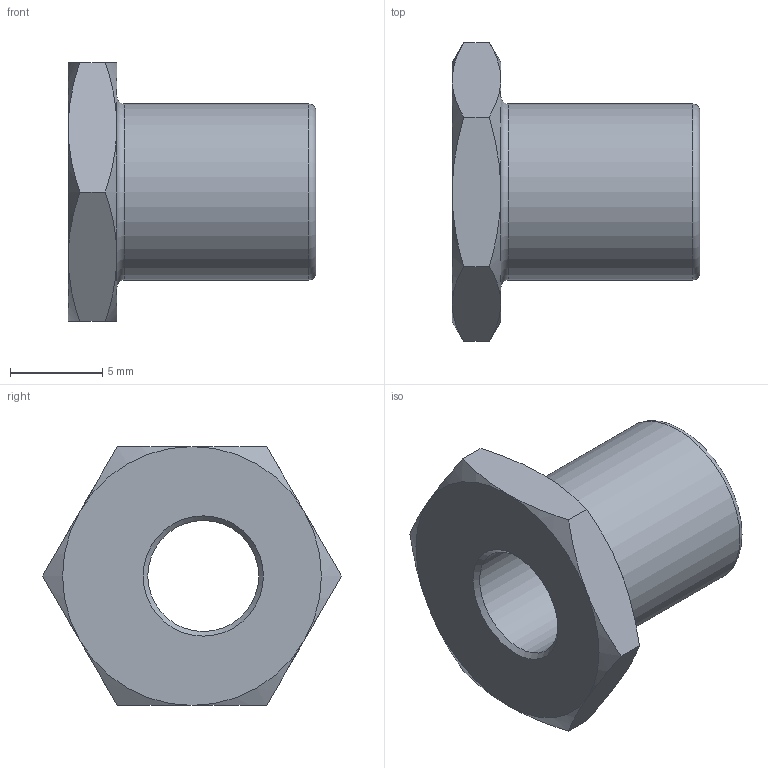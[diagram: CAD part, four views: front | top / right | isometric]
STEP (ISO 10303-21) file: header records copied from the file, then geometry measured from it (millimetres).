
FILE_DESCRIPTION( ( 'STEP AP214' ), '1' );
FILE_NAME( 'p:/temp/worker_39/temp/app_58_02019012316291827954926192d056f_000000_00_00_000000/format_0/M2PWBX.stp', '2019-01-23T15:29:18', ( '' ), ( '' ), ' ', 'PARTsolutions', ' ' );
FILE_SCHEMA( ( 'AUTOMOTIVE_DESIGN { 1 0 10303 214 1 1 1 1 }' ) );
Length unit declared in the file: inch
Products named in the file (1): _M2PWBX
Bounding box: 13.4 x 16.17 x 14 mm (x, y, z)
Volume: 828.1 mm3; surface area: 953.9 mm2
Topology: 1 solids, 1 shells, 27 faces, 56 edges, 32 vertices
Faces by surface type: cone 14, plane 9, torus 2, cylinder 2
Full cylindrical faces by diameter (mm): 6 x1, 9.52 x1
Entity records: 996 total; most frequent: CARTESIAN_POINT 246, DIRECTION 102, ORIENTED_EDGE 100, EDGE_CURVE 50, AXIS2_PLACEMENT_3D 48, EDGE_LOOP 36, VERTEX_POINT 32, FACE_OUTER_BOUND 31
